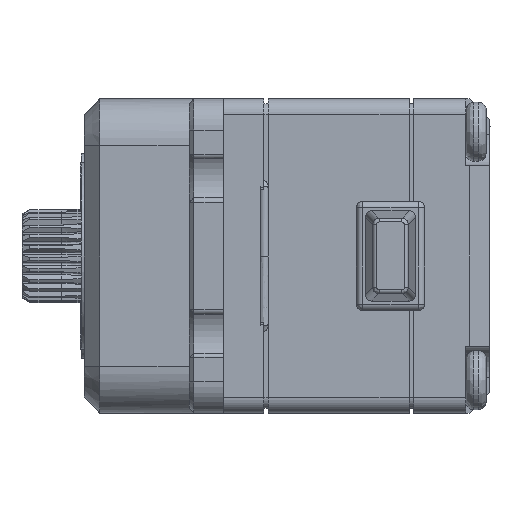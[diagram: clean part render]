
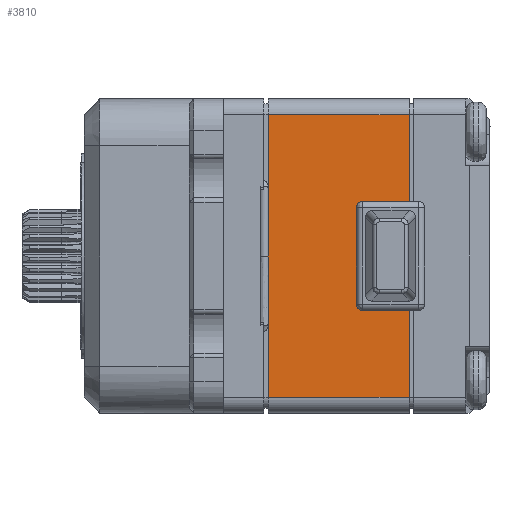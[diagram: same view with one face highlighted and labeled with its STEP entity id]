
A CAD part, left-side view. The second image highlights one B-rep face of the part: STEP entity #3810.
In plain terms, the highlighted planar face has unit normal (-1, 0, 0).
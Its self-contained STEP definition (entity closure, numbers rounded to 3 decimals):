
#568 = VECTOR ( 'NONE', #42801, 1000. ) ;
#1304 = ORIENTED_EDGE ( 'NONE', *, *, #30369, .F. ) ;
#2868 = DIRECTION ( 'NONE',  ( -1., 0., 0. ) ) ;
#3152 = PLANE ( 'NONE',  #8507 ) ;
#3810 = ADVANCED_FACE ( 'NONE', ( #13715 ), #3152, .F. ) ;
#4686 = DIRECTION ( 'NONE',  ( 0., 0., 1. ) ) ;
#4734 = CARTESIAN_POINT ( 'NONE',  ( -9.04, -8.55, -3.097 ) ) ;
#7540 = VECTOR ( 'NONE', #44552, 1000. ) ;
#8507 = AXIS2_PLACEMENT_3D ( 'NONE', #66101, #43353, #43719 ) ;
#9079 = DIRECTION ( 'NONE',  ( 0., 0., 1. ) ) ;
#9535 = ORIENTED_EDGE ( 'NONE', *, *, #61820, .T. ) ;
#10184 = VECTOR ( 'NONE', #4686, 1000. ) ;
#12162 = CARTESIAN_POINT ( 'NONE',  ( -9.04, -2.9, -9.1 ) ) ;
#12803 = CARTESIAN_POINT ( 'NONE',  ( -9.04, -11.95, -9.1 ) ) ;
#13562 = EDGE_CURVE ( 'NONE', #69859, #58976, #25350, .T. ) ;
#13640 = ORIENTED_EDGE ( 'NONE', *, *, #64577, .F. ) ;
#13715 = FACE_OUTER_BOUND ( 'NONE', #23416, .T. ) ;
#14912 = CARTESIAN_POINT ( 'NONE',  ( -9.04, -2.9, -10.1 ) ) ;
#15218 = VECTOR ( 'NONE', #27235, 1000. ) ;
#16773 = EDGE_CURVE ( 'NONE', #33882, #22428, #46961, .T. ) ;
#18059 = AXIS2_PLACEMENT_3D ( 'NONE', #57905, #2868, #9079 ) ;
#18888 = CARTESIAN_POINT ( 'NONE',  ( -9.04, -8.55, 3.103 ) ) ;
#20297 = LINE ( 'NONE', #14912, #58674 ) ;
#21939 = DIRECTION ( 'NONE',  ( 0., 0., 1. ) ) ;
#22428 = VERTEX_POINT ( 'NONE', #56682 ) ;
#22485 = CARTESIAN_POINT ( 'NONE',  ( -9.04, -8.55, -10.1 ) ) ;
#22998 = DIRECTION ( 'NONE',  ( -1., 0., 0. ) ) ;
#23247 = CARTESIAN_POINT ( 'NONE',  ( -9.04, -8.95, 3.503 ) ) ;
#23416 = EDGE_LOOP ( 'NONE', ( #28607, #9535, #1304, #51570, #33327, #59292, #65294, #33618, #29868, #13640 ) ) ;
#24774 = CARTESIAN_POINT ( 'NONE',  ( -9.04, -2.9, 3.503 ) ) ;
#25350 = LINE ( 'NONE', #69500, #568 ) ;
#25451 = EDGE_CURVE ( 'NONE', #69859, #31075, #33195, .T. ) ;
#25976 = VERTEX_POINT ( 'NONE', #54018 ) ;
#26746 = LINE ( 'NONE', #48837, #10184 ) ;
#27235 = DIRECTION ( 'NONE',  ( 0., 0., -1. ) ) ;
#28607 = ORIENTED_EDGE ( 'NONE', *, *, #54638, .F. ) ;
#29868 = ORIENTED_EDGE ( 'NONE', *, *, #69659, .F. ) ;
#30369 = EDGE_CURVE ( 'NONE', #33090, #25976, #43875, .T. ) ;
#30607 = DIRECTION ( 'NONE',  ( 0., 1., 0. ) ) ;
#31075 = VERTEX_POINT ( 'NONE', #12162 ) ;
#33090 = VERTEX_POINT ( 'NONE', #66576 ) ;
#33195 = LINE ( 'NONE', #51254, #36461 ) ;
#33327 = ORIENTED_EDGE ( 'NONE', *, *, #25451, .F. ) ;
#33618 = ORIENTED_EDGE ( 'NONE', *, *, #16773, .F. ) ;
#33772 = LINE ( 'NONE', #22485, #15218 ) ;
#33882 = VERTEX_POINT ( 'NONE', #4734 ) ;
#34028 = DIRECTION ( 'NONE',  ( 0., 0., 1. ) ) ;
#36461 = VECTOR ( 'NONE', #30607, 1000. ) ;
#38433 = CARTESIAN_POINT ( 'NONE',  ( -9.04, -2.9, 9.1 ) ) ;
#42801 = DIRECTION ( 'NONE',  ( 0., 0., 1. ) ) ;
#43353 = DIRECTION ( 'NONE',  ( 1., 0., 0. ) ) ;
#43719 = DIRECTION ( 'NONE',  ( 0., 0., -1. ) ) ;
#43875 = LINE ( 'NONE', #38433, #7540 ) ;
#44145 = AXIS2_PLACEMENT_3D ( 'NONE', #45480, #22998, #21939 ) ;
#44552 = DIRECTION ( 'NONE',  ( 0., -1., 0. ) ) ;
#45480 = CARTESIAN_POINT ( 'NONE',  ( -9.04, -8.95, 3.103 ) ) ;
#46550 = LINE ( 'NONE', #24774, #66197 ) ;
#46961 = CIRCLE ( 'NONE', #18059, 0.4 ) ;
#48837 = CARTESIAN_POINT ( 'NONE',  ( -9.04, -11.95, 0. ) ) ;
#50520 = VERTEX_POINT ( 'NONE', #23247 ) ;
#51170 = VECTOR ( 'NONE', #70429, 1000. ) ;
#51254 = CARTESIAN_POINT ( 'NONE',  ( -9.04, -2.9, -9.1 ) ) ;
#51570 = ORIENTED_EDGE ( 'NONE', *, *, #67389, .F. ) ;
#54018 = CARTESIAN_POINT ( 'NONE',  ( -9.04, -11.95, 9.1 ) ) ;
#54638 = EDGE_CURVE ( 'NONE', #60760, #50520, #46550, .T. ) ;
#56682 = CARTESIAN_POINT ( 'NONE',  ( -9.04, -8.95, -3.497 ) ) ;
#57905 = CARTESIAN_POINT ( 'NONE',  ( -9.04, -8.95, -3.097 ) ) ;
#58674 = VECTOR ( 'NONE', #34028, 1000. ) ;
#58976 = VERTEX_POINT ( 'NONE', #71570 ) ;
#59292 = ORIENTED_EDGE ( 'NONE', *, *, #13562, .T. ) ;
#60760 = VERTEX_POINT ( 'NONE', #69435 ) ;
#61820 = EDGE_CURVE ( 'NONE', #60760, #25976, #26746, .T. ) ;
#63744 = CIRCLE ( 'NONE', #44145, 0.4 ) ;
#64577 = EDGE_CURVE ( 'NONE', #50520, #68142, #63744, .T. ) ;
#65294 = ORIENTED_EDGE ( 'NONE', *, *, #71502, .F. ) ;
#66101 = CARTESIAN_POINT ( 'NONE',  ( -9.04, -2.9, -10.1 ) ) ;
#66197 = VECTOR ( 'NONE', #68590, 1000. ) ;
#66576 = CARTESIAN_POINT ( 'NONE',  ( -9.04, -2.9, 9.1 ) ) ;
#67389 = EDGE_CURVE ( 'NONE', #31075, #33090, #20297, .T. ) ;
#68142 = VERTEX_POINT ( 'NONE', #18888 ) ;
#68590 = DIRECTION ( 'NONE',  ( 0., 1., 0. ) ) ;
#69435 = CARTESIAN_POINT ( 'NONE',  ( -9.04, -11.95, 3.503 ) ) ;
#69500 = CARTESIAN_POINT ( 'NONE',  ( -9.04, -11.95, 0. ) ) ;
#69659 = EDGE_CURVE ( 'NONE', #68142, #33882, #33772, .T. ) ;
#69859 = VERTEX_POINT ( 'NONE', #12803 ) ;
#70429 = DIRECTION ( 'NONE',  ( 0., -1., 0. ) ) ;
#70778 = LINE ( 'NONE', #71116, #51170 ) ;
#71116 = CARTESIAN_POINT ( 'NONE',  ( -9.04, -2.9, -3.497 ) ) ;
#71502 = EDGE_CURVE ( 'NONE', #22428, #58976, #70778, .T. ) ;
#71570 = CARTESIAN_POINT ( 'NONE',  ( -9.04, -11.95, -3.497 ) ) ;
